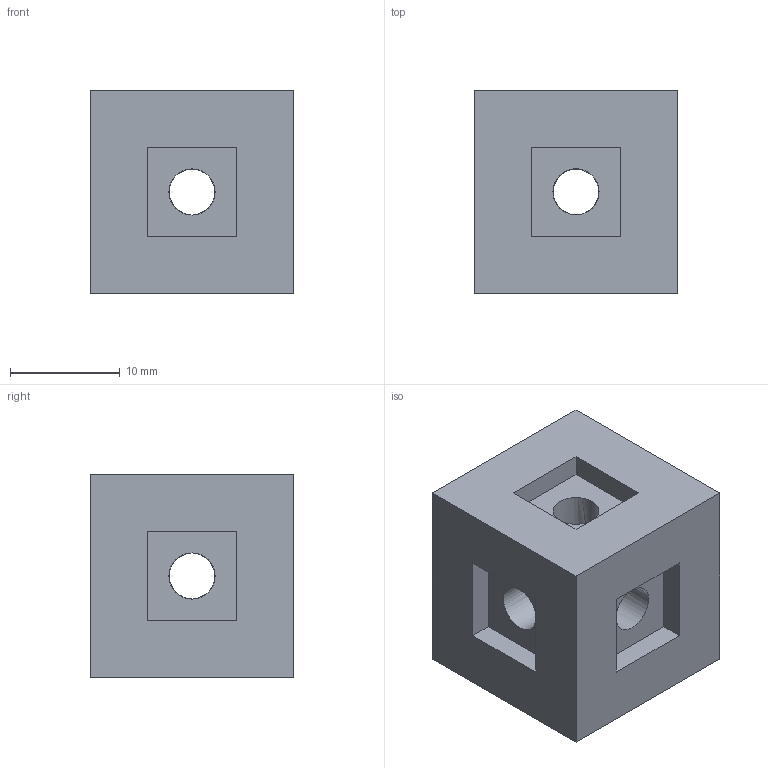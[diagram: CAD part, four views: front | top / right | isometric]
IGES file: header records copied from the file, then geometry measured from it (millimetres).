
Start section: Data from Parasolid IGES Translator 20.0.26, Copyright(c) 2006 Siemens P LM Software. All Rights Reserved.
Global section: file name: 9303954.igs; native system: By Siemens PLM Incorporated; preprocessor: XPlus GENERIC/IGES 20.0.26; author: Noname; organization: Noname; date: 20210922.163800; units: millimetre
Bounding box: 18.5 x 18.5 x 18.5 mm (x, y, z)
Surface area: 2783.5 mm2 (no closed solid volume)
Topology: 0 solids, 0 shells, 42 faces, 226 edges, 226 vertices
Faces by surface type: extrusion 36, revolution 6
